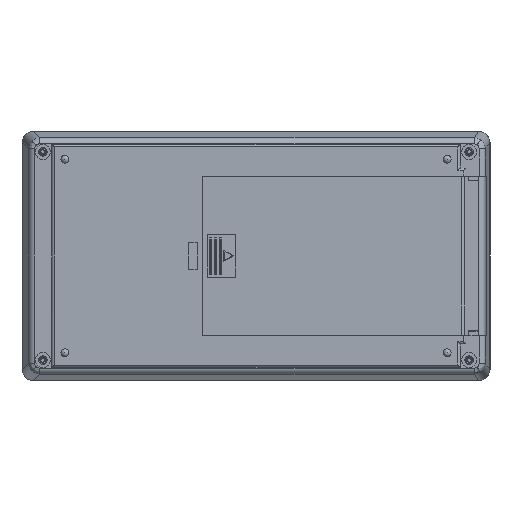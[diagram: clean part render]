
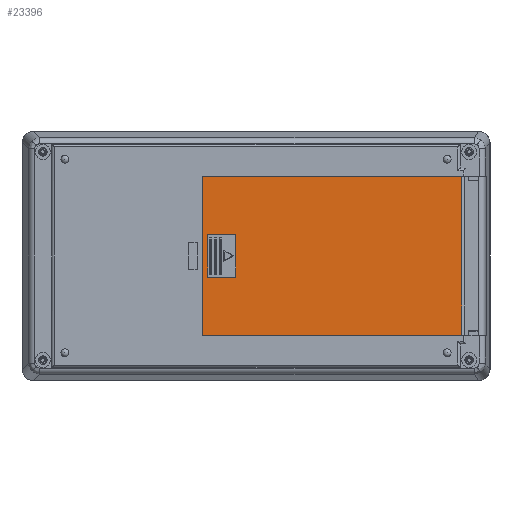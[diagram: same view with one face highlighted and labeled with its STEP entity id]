
A CAD part, front view. The second image highlights one B-rep face of the part: STEP entity #23396.
In plain terms, the highlighted planar face has unit normal (0, -1, 0).
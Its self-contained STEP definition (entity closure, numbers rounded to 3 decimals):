
#554 = CARTESIAN_POINT ( 'NONE',  ( 27.2, 0., 8.75 ) ) ;
#663 = LINE ( 'NONE', #5811, #5422 ) ;
#930 = EDGE_CURVE ( 'NONE', #22048, #14094, #17745, .T. ) ;
#1625 = VECTOR ( 'NONE', #3864, 1000. ) ;
#1820 = LINE ( 'NONE', #25048, #5987 ) ;
#2372 = LINE ( 'NONE', #16715, #13144 ) ;
#2576 = EDGE_LOOP ( 'NONE', ( #23188, #13018, #4641, #23422 ) ) ;
#3266 = ORIENTED_EDGE ( 'NONE', *, *, #20219, .T. ) ;
#3346 = CARTESIAN_POINT ( 'NONE',  ( 25.2, 0., 32.4 ) ) ;
#3864 = DIRECTION ( 'NONE',  ( 1., 0., 0. ) ) ;
#3876 = LINE ( 'NONE', #4379, #15237 ) ;
#3883 = CARTESIAN_POINT ( 'NONE',  ( 25.2, 0., 32.4 ) ) ;
#4056 = VERTEX_POINT ( 'NONE', #4323 ) ;
#4323 = CARTESIAN_POINT ( 'NONE',  ( 38.7, 0., -8.75 ) ) ;
#4379 = CARTESIAN_POINT ( 'NONE',  ( 38.7, 0., 8.75 ) ) ;
#4641 = ORIENTED_EDGE ( 'NONE', *, *, #9105, .F. ) ;
#4667 = DIRECTION ( 'NONE',  ( 0., 0., -1. ) ) ;
#4929 = VERTEX_POINT ( 'NONE', #8631 ) ;
#5422 = VECTOR ( 'NONE', #9893, 1000. ) ;
#5679 = EDGE_CURVE ( 'NONE', #23360, #6296, #2372, .T. ) ;
#5811 = CARTESIAN_POINT ( 'NONE',  ( 25.2, 0., -32.4 ) ) ;
#5987 = VECTOR ( 'NONE', #11025, 1000. ) ;
#6296 = VERTEX_POINT ( 'NONE', #21205 ) ;
#8631 = CARTESIAN_POINT ( 'NONE',  ( 38.7, 0., 8.75 ) ) ;
#8765 = VECTOR ( 'NONE', #15178, 1000. ) ;
#8903 = VECTOR ( 'NONE', #19323, 1000. ) ;
#8913 = DIRECTION ( 'NONE',  ( 0., 1., 0. ) ) ;
#9105 = EDGE_CURVE ( 'NONE', #6296, #4056, #22976, .T. ) ;
#9248 = CARTESIAN_POINT ( 'NONE',  ( 25.2, 0., 32.4 ) ) ;
#9266 = ORIENTED_EDGE ( 'NONE', *, *, #11281, .F. ) ;
#9893 = DIRECTION ( 'NONE',  ( 1., 0., 0. ) ) ;
#10018 = FACE_OUTER_BOUND ( 'NONE', #12300, .T. ) ;
#11025 = DIRECTION ( 'NONE',  ( 0., 0., -1. ) ) ;
#11281 = EDGE_CURVE ( 'NONE', #14094, #13657, #1820, .T. ) ;
#11598 = VERTEX_POINT ( 'NONE', #20719 ) ;
#12300 = EDGE_LOOP ( 'NONE', ( #3266, #9266, #14164, #13742 ) ) ;
#12381 = VECTOR ( 'NONE', #13957, 1000. ) ;
#13018 = ORIENTED_EDGE ( 'NONE', *, *, #24108, .F. ) ;
#13144 = VECTOR ( 'NONE', #4667, 1000. ) ;
#13657 = VERTEX_POINT ( 'NONE', #21348 ) ;
#13742 = ORIENTED_EDGE ( 'NONE', *, *, #15980, .T. ) ;
#13957 = DIRECTION ( 'NONE',  ( 1., 0., 0. ) ) ;
#14040 = LINE ( 'NONE', #19183, #8765 ) ;
#14042 = EDGE_CURVE ( 'NONE', #4929, #23360, #3876, .T. ) ;
#14094 = VERTEX_POINT ( 'NONE', #22706 ) ;
#14164 = ORIENTED_EDGE ( 'NONE', *, *, #930, .F. ) ;
#14811 = LINE ( 'NONE', #9248, #8903 ) ;
#15178 = DIRECTION ( 'NONE',  ( 0., 0., 1. ) ) ;
#15237 = VECTOR ( 'NONE', #20476, 1000. ) ;
#15404 = AXIS2_PLACEMENT_3D ( 'NONE', #20890, #8913, #22861 ) ;
#15980 = EDGE_CURVE ( 'NONE', #22048, #11598, #14811, .T. ) ;
#16715 = CARTESIAN_POINT ( 'NONE',  ( 27.2, 0., 8.75 ) ) ;
#16875 = PLANE ( 'NONE',  #15404 ) ;
#17745 = LINE ( 'NONE', #3883, #1625 ) ;
#19183 = CARTESIAN_POINT ( 'NONE',  ( 38.7, 0., 8.75 ) ) ;
#19323 = DIRECTION ( 'NONE',  ( 0., 0., -1. ) ) ;
#20219 = EDGE_CURVE ( 'NONE', #11598, #13657, #663, .T. ) ;
#20476 = DIRECTION ( 'NONE',  ( -1., 0., 0. ) ) ;
#20719 = CARTESIAN_POINT ( 'NONE',  ( 25.2, 0., -32.4 ) ) ;
#20890 = CARTESIAN_POINT ( 'NONE',  ( 25.2, 0., 32.4 ) ) ;
#21205 = CARTESIAN_POINT ( 'NONE',  ( 27.2, 0., -8.75 ) ) ;
#21348 = CARTESIAN_POINT ( 'NONE',  ( 130.956, 0., -32.4 ) ) ;
#22048 = VERTEX_POINT ( 'NONE', #3346 ) ;
#22706 = CARTESIAN_POINT ( 'NONE',  ( 130.956, 0., 32.4 ) ) ;
#22861 = DIRECTION ( 'NONE',  ( 0., 0., 1. ) ) ;
#22976 = LINE ( 'NONE', #25921, #12381 ) ;
#23188 = ORIENTED_EDGE ( 'NONE', *, *, #14042, .F. ) ;
#23360 = VERTEX_POINT ( 'NONE', #554 ) ;
#23396 = ADVANCED_FACE ( 'NONE', ( #25910, #10018 ), #16875, .F. ) ;
#23422 = ORIENTED_EDGE ( 'NONE', *, *, #5679, .F. ) ;
#24108 = EDGE_CURVE ( 'NONE', #4056, #4929, #14040, .T. ) ;
#25048 = CARTESIAN_POINT ( 'NONE',  ( 130.956, 0., 32.4 ) ) ;
#25910 = FACE_BOUND ( 'NONE', #2576, .T. ) ;
#25921 = CARTESIAN_POINT ( 'NONE',  ( 38.7, 0., -8.75 ) ) ;
